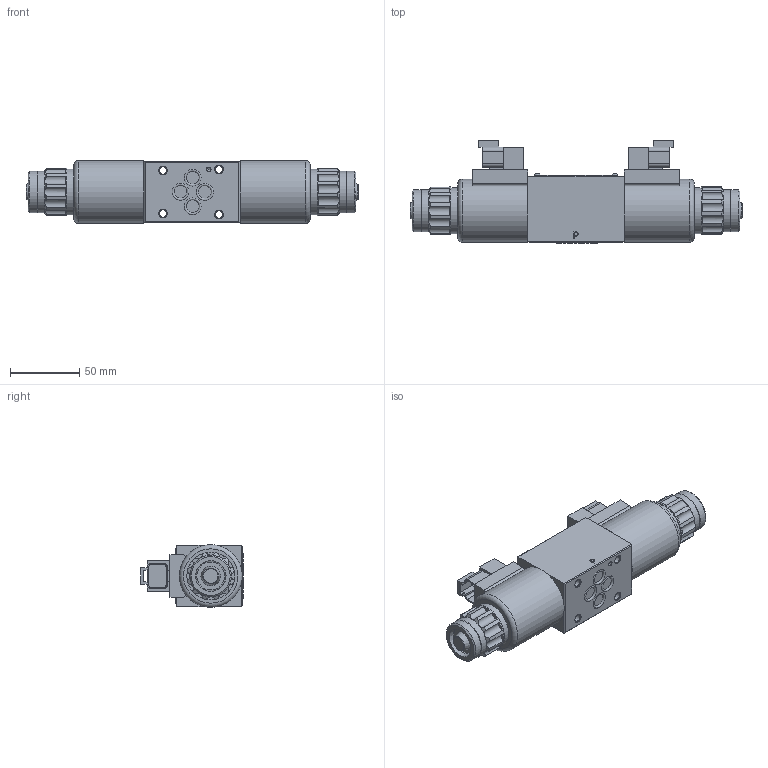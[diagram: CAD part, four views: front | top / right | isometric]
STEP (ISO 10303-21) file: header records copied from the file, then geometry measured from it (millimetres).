
FILE_DESCRIPTION(/* description */ (''),/* implementation_level */ '2;1');
FILE_NAME(/* name */ '4WE6-6XJ防水直流电磁阀（三位阀）.prt.stp',/* time_stamp */ '2022-03-30T19:31:45+08:00',/* author */ (''),/* organization */ (''),/* preprocessor_version */ 'ST-DEVELOPER v16.7',/* originating_system */ 'SIEMENS PLM Software NX 12.0',/* authorisation */ '');
FILE_SCHEMA (('AUTOMOTIVE_DESIGN { 1 0 10303 214 3 1 1 1 }'));
Length unit declared in the file: millimetre
Products named in the file (1): 4WE6-6XJ防水直流电磁阀（三位阀）
Bounding box: 239.3 x 73.78 x 45.2 mm (x, y, z)
Volume: 352922.9 mm3; surface area: 113817.5 mm2
Topology: 47 solids, 54 shells, 1202 faces, 3055 edges, 1997 vertices
Faces by surface type: plane 779, cylinder 257, cone 81, torus 31, bspline 30, extrusion 18, sphere 6
Full cylindrical faces by diameter (mm): 1.5 x2, 1.8 x4, 2 x6, 2.5 x2, 3 x3, 4 x2, 4.6 x2, 5 x2, 5.3 x4, 8.1 x2, 8.7 x2, 9.4 x4, 11 x2, 12 x2, 12.2 x2, 12.5 x2, 14.3 x2, 17.4 x2, 18 x2, 20 x2, 23 x4, 23.5 x2, 24 x2, 26 x2, 28 x4, 30 x4, 33 x2, 34.5 x2, 45.2 x2
Entity records: 44944 total; most frequent: CARTESIAN_POINT 16045, ORIENTED_EDGE 5682, DIRECTION 5565, EDGE_CURVE 2841, VECTOR 2029, LINE 2011, VERTEX_POINT 1954, AXIS2_PLACEMENT_3D 1768
